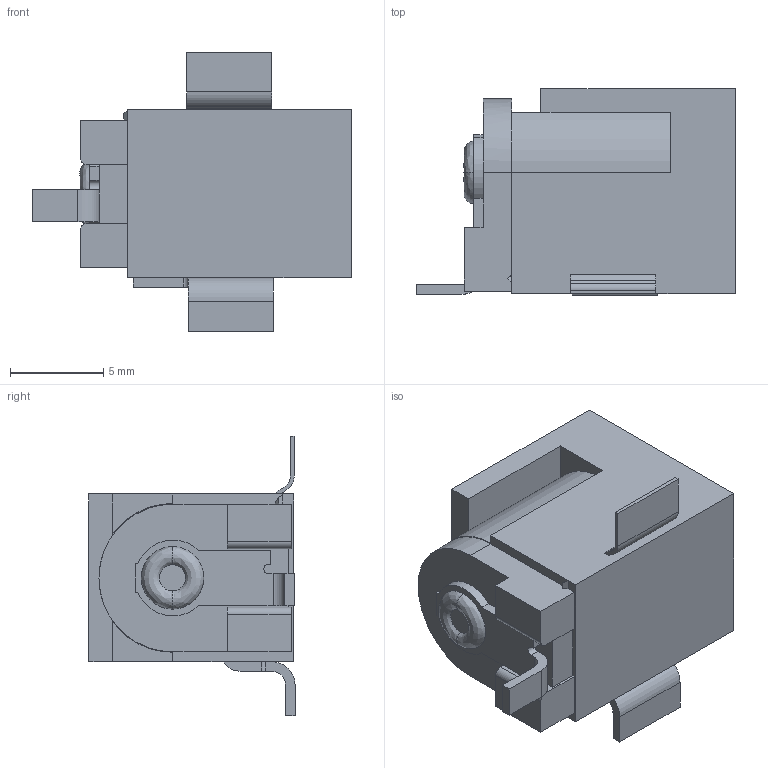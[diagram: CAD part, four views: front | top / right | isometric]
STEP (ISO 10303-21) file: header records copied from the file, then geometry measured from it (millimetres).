
FILE_DESCRIPTION (( 'STEP AP214' ), '1' );
FILE_NAME ('RASM722X.STEP', '2024-07-19T07:31:47', ( '' ), ( '' ), 'SwSTEP 2.0', 'SolidWorks 2024', '' );
FILE_SCHEMA (( 'AUTOMOTIVE_DESIGN' ));
Length unit declared in the file: millimetre
Products named in the file (1): RASM722X
Bounding box: 17.07 x 11.06 x 15.01 mm (x, y, z)
Volume: 1025.1 mm3; surface area: 1153.3 mm2
Topology: 1 solids, 2 shells, 150 faces, 402 edges, 264 vertices
Faces by surface type: plane 93, bspline 29, cylinder 26, cone 2
Entity records: 6493 total; most frequent: CARTESIAN_POINT 2574, ORIENTED_EDGE 800, DIRECTION 639, EDGE_CURVE 400, VECTOR 277, LINE 277, VERTEX_POINT 264, AXIS2_PLACEMENT_3D 181
